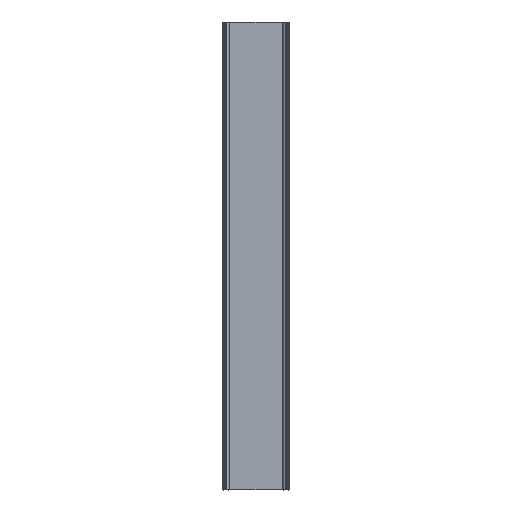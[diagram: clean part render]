
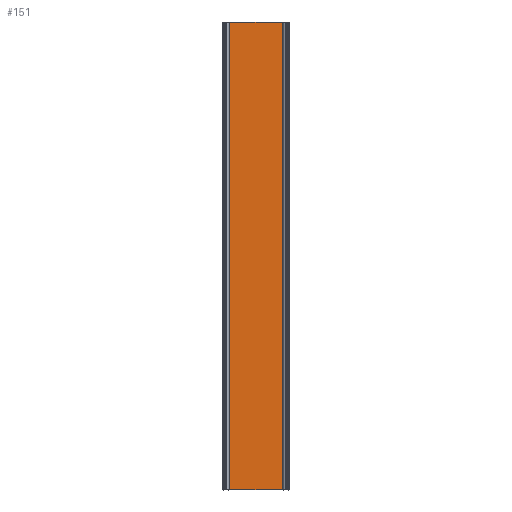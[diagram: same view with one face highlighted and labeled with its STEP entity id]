
A CAD part, front view. The second image highlights one B-rep face of the part: STEP entity #151.
In plain terms, the highlighted planar face has unit normal (0, -1, 0).
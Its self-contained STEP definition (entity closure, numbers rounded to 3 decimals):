
#151=ADVANCED_FACE('',(#229),#743,.T.);
#229=FACE_OUTER_BOUND('',#311,.F.);
#311=EDGE_LOOP('',(#506,#507,#508,#509));
#506=ORIENTED_EDGE('',*,*,#973,.T.);
#507=ORIENTED_EDGE('',*,*,#1017,.F.);
#508=ORIENTED_EDGE('',*,*,#1003,.F.);
#509=ORIENTED_EDGE('',*,*,#1018,.T.);
#743=PLANE('',#1383);
#778=LINE('',#2007,#872);
#797=LINE('',#2037,#891);
#809=LINE('',#2051,#903);
#810=LINE('',#2052,#904);
#872=VECTOR('',#1513,33.601);
#891=VECTOR('',#1554,33.601);
#903=VECTOR('',#1570,300.);
#904=VECTOR('',#1571,300.);
#973=EDGE_CURVE('',#1252,#1253,#778,.T.);
#1003=EDGE_CURVE('',#1228,#1229,#797,.T.);
#1017=EDGE_CURVE('',#1229,#1253,#809,.T.);
#1018=EDGE_CURVE('',#1228,#1252,#810,.T.);
#1228=VERTEX_POINT('',#1928);
#1229=VERTEX_POINT('',#1929);
#1252=VERTEX_POINT('',#1952);
#1253=VERTEX_POINT('',#1953);
#1383=AXIS2_PLACEMENT_3D('',#2123,#1691,#1692);
#1513=DIRECTION('',(1.,0.,0.));
#1554=DIRECTION('',(1.,0.,0.));
#1570=DIRECTION('',(0.,0.,1.));
#1571=DIRECTION('',(0.,0.,1.));
#1691=DIRECTION('',(0.,-1.,0.));
#1692=DIRECTION('',(1.,0.,0.));
#1928=CARTESIAN_POINT('',(-16.801,-182.25,-34.17));
#1929=CARTESIAN_POINT('',(16.801,-182.25,-34.17));
#1952=CARTESIAN_POINT('',(-16.801,-182.25,265.83));
#1953=CARTESIAN_POINT('',(16.801,-182.25,265.83));
#2007=CARTESIAN_POINT('',(-16.801,-182.25,265.83));
#2037=CARTESIAN_POINT('',(-16.801,-182.25,-34.17));
#2051=CARTESIAN_POINT('',(16.801,-182.25,-34.17));
#2052=CARTESIAN_POINT('',(-16.801,-182.25,-34.17));
#2123=CARTESIAN_POINT('',(-19.801,-182.25,-37.17));
